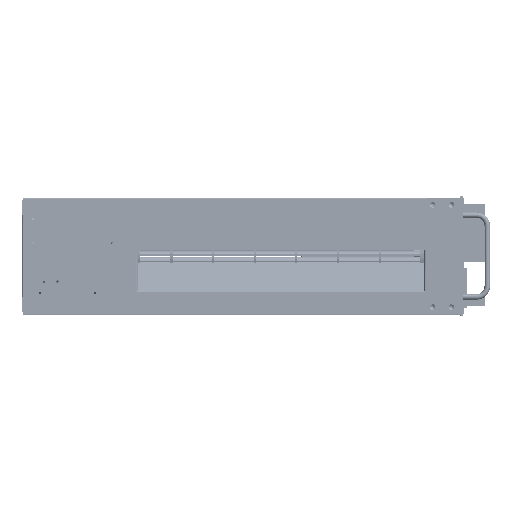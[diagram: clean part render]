
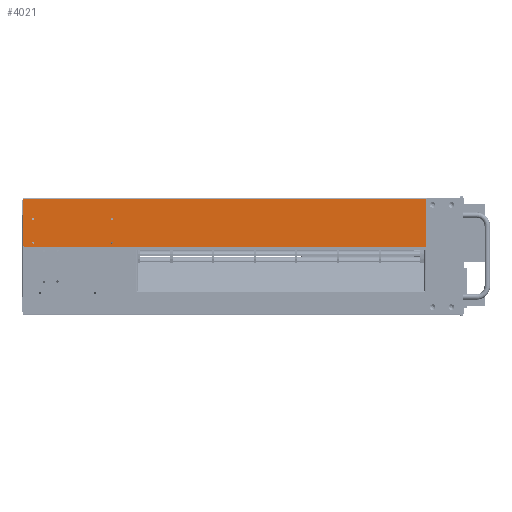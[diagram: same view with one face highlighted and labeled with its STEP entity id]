
A CAD part, left-side view. The second image highlights one B-rep face of the part: STEP entity #4021.
In plain terms, the highlighted planar face has unit normal (-1, 0, 0).
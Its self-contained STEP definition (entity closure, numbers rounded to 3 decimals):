
#3836=CARTESIAN_POINT('Vertex',(-220.5,320.,-67.)) ;
#3839=CARTESIAN_POINT('Line Origine',(-220.5,320.,-33.75)) ;
#3843=CARTESIAN_POINT('Vertex',(-220.5,320.,-0.5)) ;
#3867=CARTESIAN_POINT('Axis2P3D Location',(-220.5,-320.,0.077)) ;
#3872=CARTESIAN_POINT('Axis2P3D Location',(-220.5,317.,-67.)) ;
#3876=CARTESIAN_POINT('Vertex',(-220.5,317.,-70.)) ;
#3879=CARTESIAN_POINT('Line Origine',(-220.5,0.,-70.)) ;
#3883=CARTESIAN_POINT('Vertex',(-220.5,-317.,-70.)) ;
#3886=CARTESIAN_POINT('Axis2P3D Location',(-220.5,-317.,-67.)) ;
#3890=CARTESIAN_POINT('Vertex',(-220.5,-320.,-67.)) ;
#3893=CARTESIAN_POINT('Line Origine',(-220.5,-320.,-33.75)) ;
#3897=CARTESIAN_POINT('Vertex',(-220.5,-320.,-0.5)) ;
#3900=CARTESIAN_POINT('Line Origine',(-220.5,0.,-0.5)) ;
#3913=CARTESIAN_POINT('Axis2P3D Location',(-220.5,190.,-29.)) ;
#3917=CARTESIAN_POINT('Vertex',(-220.5,190.,-30.6)) ;
#3919=CARTESIAN_POINT('Vertex',(-220.5,190.,-27.4)) ;
#3922=CARTESIAN_POINT('Axis2P3D Location',(-220.5,190.,-29.)) ;
#3931=CARTESIAN_POINT('Axis2P3D Location',(-220.5,305.,-64.)) ;
#3935=CARTESIAN_POINT('Vertex',(-220.5,305.,-65.6)) ;
#3937=CARTESIAN_POINT('Vertex',(-220.5,305.,-62.4)) ;
#3940=CARTESIAN_POINT('Axis2P3D Location',(-220.5,305.,-64.)) ;
#3949=CARTESIAN_POINT('Axis2P3D Location',(-220.5,305.,-29.)) ;
#3953=CARTESIAN_POINT('Vertex',(-220.5,305.,-30.6)) ;
#3955=CARTESIAN_POINT('Vertex',(-220.5,305.,-27.4)) ;
#3958=CARTESIAN_POINT('Axis2P3D Location',(-220.5,305.,-29.)) ;
#3967=CARTESIAN_POINT('Axis2P3D Location',(-220.5,190.,-64.)) ;
#3971=CARTESIAN_POINT('Vertex',(-220.5,190.,-65.6)) ;
#3973=CARTESIAN_POINT('Vertex',(-220.5,190.,-62.4)) ;
#3976=CARTESIAN_POINT('Axis2P3D Location',(-220.5,190.,-64.)) ;
#3985=CARTESIAN_POINT('Axis2P3D Location',(-220.5,-307.5,-8.5)) ;
#3989=CARTESIAN_POINT('Vertex',(-220.5,-307.5,-10.1)) ;
#3991=CARTESIAN_POINT('Vertex',(-220.5,-307.5,-6.9)) ;
#3994=CARTESIAN_POINT('Axis2P3D Location',(-220.5,-307.5,-8.5)) ;
#4003=CARTESIAN_POINT('Axis2P3D Location',(-220.5,-280.,-8.5)) ;
#4007=CARTESIAN_POINT('Vertex',(-220.5,-280.,-10.1)) ;
#4009=CARTESIAN_POINT('Vertex',(-220.5,-280.,-6.9)) ;
#4012=CARTESIAN_POINT('Axis2P3D Location',(-220.5,-280.,-8.5)) ;
#3840=DIRECTION('Vector Direction',(0.,0.,-1.)) ;
#3868=DIRECTION('Axis2P3D Direction',(-1.,0.,0.)) ;
#3869=DIRECTION('Axis2P3D XDirection',(0.,0.,1.)) ;
#3873=DIRECTION('Axis2P3D Direction',(-1.,0.,0.)) ;
#3880=DIRECTION('Vector Direction',(0.,-1.,0.)) ;
#3887=DIRECTION('Axis2P3D Direction',(-1.,0.,0.)) ;
#3894=DIRECTION('Vector Direction',(0.,0.,1.)) ;
#3901=DIRECTION('Vector Direction',(0.,1.,0.)) ;
#3914=DIRECTION('Axis2P3D Direction',(-1.,0.,0.)) ;
#3923=DIRECTION('Axis2P3D Direction',(-1.,0.,0.)) ;
#3932=DIRECTION('Axis2P3D Direction',(-1.,0.,0.)) ;
#3941=DIRECTION('Axis2P3D Direction',(-1.,0.,0.)) ;
#3950=DIRECTION('Axis2P3D Direction',(-1.,0.,0.)) ;
#3959=DIRECTION('Axis2P3D Direction',(-1.,0.,0.)) ;
#3968=DIRECTION('Axis2P3D Direction',(-1.,0.,0.)) ;
#3977=DIRECTION('Axis2P3D Direction',(-1.,0.,0.)) ;
#3986=DIRECTION('Axis2P3D Direction',(-1.,0.,0.)) ;
#3995=DIRECTION('Axis2P3D Direction',(-1.,0.,0.)) ;
#4004=DIRECTION('Axis2P3D Direction',(-1.,0.,0.)) ;
#4013=DIRECTION('Axis2P3D Direction',(-1.,0.,0.)) ;
#3870=AXIS2_PLACEMENT_3D('Plane Axis2P3D',#3867,#3868,#3869) ;
#3874=AXIS2_PLACEMENT_3D('Circle Axis2P3D',#3872,#3873,$) ;
#3888=AXIS2_PLACEMENT_3D('Circle Axis2P3D',#3886,#3887,$) ;
#3915=AXIS2_PLACEMENT_3D('Circle Axis2P3D',#3913,#3914,$) ;
#3924=AXIS2_PLACEMENT_3D('Circle Axis2P3D',#3922,#3923,$) ;
#3933=AXIS2_PLACEMENT_3D('Circle Axis2P3D',#3931,#3932,$) ;
#3942=AXIS2_PLACEMENT_3D('Circle Axis2P3D',#3940,#3941,$) ;
#3951=AXIS2_PLACEMENT_3D('Circle Axis2P3D',#3949,#3950,$) ;
#3960=AXIS2_PLACEMENT_3D('Circle Axis2P3D',#3958,#3959,$) ;
#3969=AXIS2_PLACEMENT_3D('Circle Axis2P3D',#3967,#3968,$) ;
#3978=AXIS2_PLACEMENT_3D('Circle Axis2P3D',#3976,#3977,$) ;
#3987=AXIS2_PLACEMENT_3D('Circle Axis2P3D',#3985,#3986,$) ;
#3996=AXIS2_PLACEMENT_3D('Circle Axis2P3D',#3994,#3995,$) ;
#4005=AXIS2_PLACEMENT_3D('Circle Axis2P3D',#4003,#4004,$) ;
#4014=AXIS2_PLACEMENT_3D('Circle Axis2P3D',#4012,#4013,$) ;
#3906=ORIENTED_EDGE('',*,*,#3845,.T.) ;
#3907=ORIENTED_EDGE('',*,*,#3878,.T.) ;
#3908=ORIENTED_EDGE('',*,*,#3885,.T.) ;
#3909=ORIENTED_EDGE('',*,*,#3892,.T.) ;
#3910=ORIENTED_EDGE('',*,*,#3899,.T.) ;
#3911=ORIENTED_EDGE('',*,*,#3904,.T.) ;
#3928=ORIENTED_EDGE('',*,*,#3921,.F.) ;
#3929=ORIENTED_EDGE('',*,*,#3926,.F.) ;
#3946=ORIENTED_EDGE('',*,*,#3939,.F.) ;
#3947=ORIENTED_EDGE('',*,*,#3944,.F.) ;
#3964=ORIENTED_EDGE('',*,*,#3957,.F.) ;
#3965=ORIENTED_EDGE('',*,*,#3962,.F.) ;
#3982=ORIENTED_EDGE('',*,*,#3975,.F.) ;
#3983=ORIENTED_EDGE('',*,*,#3980,.F.) ;
#4000=ORIENTED_EDGE('',*,*,#3993,.F.) ;
#4001=ORIENTED_EDGE('',*,*,#3998,.F.) ;
#4018=ORIENTED_EDGE('',*,*,#4011,.F.) ;
#4019=ORIENTED_EDGE('',*,*,#4016,.F.) ;
#3930=FACE_BOUND('',#3927,.T.) ;
#3948=FACE_BOUND('',#3945,.T.) ;
#3966=FACE_BOUND('',#3963,.T.) ;
#3984=FACE_BOUND('',#3981,.T.) ;
#4002=FACE_BOUND('',#3999,.T.) ;
#4020=FACE_BOUND('',#4017,.T.) ;
#3841=VECTOR('Line Direction',#3840,1.) ;
#3881=VECTOR('Line Direction',#3880,1.) ;
#3895=VECTOR('Line Direction',#3894,1.) ;
#3902=VECTOR('Line Direction',#3901,1.) ;
#4021=ADVANCED_FACE('15',(#3912,#3930,#3948,#3966,#3984,#4002,#4020),#3871,.T.) ;
#3875=CIRCLE('generated circle',#3874,3.) ;
#3889=CIRCLE('generated circle',#3888,3.) ;
#3916=CIRCLE('generated circle',#3915,1.6) ;
#3925=CIRCLE('generated circle',#3924,1.6) ;
#3934=CIRCLE('generated circle',#3933,1.6) ;
#3943=CIRCLE('generated circle',#3942,1.6) ;
#3952=CIRCLE('generated circle',#3951,1.6) ;
#3961=CIRCLE('generated circle',#3960,1.6) ;
#3970=CIRCLE('generated circle',#3969,1.6) ;
#3979=CIRCLE('generated circle',#3978,1.6) ;
#3988=CIRCLE('generated circle',#3987,1.6) ;
#3997=CIRCLE('generated circle',#3996,1.6) ;
#4006=CIRCLE('generated circle',#4005,1.6) ;
#4015=CIRCLE('generated circle',#4014,1.6) ;
#3845=EDGE_CURVE('',#3844,#3837,#3842,.T.) ;
#3878=EDGE_CURVE('',#3837,#3877,#3875,.T.) ;
#3885=EDGE_CURVE('',#3877,#3884,#3882,.T.) ;
#3892=EDGE_CURVE('',#3884,#3891,#3889,.T.) ;
#3899=EDGE_CURVE('',#3891,#3898,#3896,.T.) ;
#3904=EDGE_CURVE('',#3898,#3844,#3903,.T.) ;
#3921=EDGE_CURVE('',#3918,#3920,#3916,.T.) ;
#3926=EDGE_CURVE('',#3920,#3918,#3925,.T.) ;
#3939=EDGE_CURVE('',#3936,#3938,#3934,.T.) ;
#3944=EDGE_CURVE('',#3938,#3936,#3943,.T.) ;
#3957=EDGE_CURVE('',#3954,#3956,#3952,.T.) ;
#3962=EDGE_CURVE('',#3956,#3954,#3961,.T.) ;
#3975=EDGE_CURVE('',#3972,#3974,#3970,.T.) ;
#3980=EDGE_CURVE('',#3974,#3972,#3979,.T.) ;
#3993=EDGE_CURVE('',#3990,#3992,#3988,.T.) ;
#3998=EDGE_CURVE('',#3992,#3990,#3997,.T.) ;
#4011=EDGE_CURVE('',#4008,#4010,#4006,.T.) ;
#4016=EDGE_CURVE('',#4010,#4008,#4015,.T.) ;
#3905=EDGE_LOOP('',(#3906,#3907,#3908,#3909,#3910,#3911)) ;
#3927=EDGE_LOOP('',(#3928,#3929)) ;
#3945=EDGE_LOOP('',(#3946,#3947)) ;
#3963=EDGE_LOOP('',(#3964,#3965)) ;
#3981=EDGE_LOOP('',(#3982,#3983)) ;
#3999=EDGE_LOOP('',(#4000,#4001)) ;
#4017=EDGE_LOOP('',(#4018,#4019)) ;
#3912=FACE_OUTER_BOUND('',#3905,.T.) ;
#3842=LINE('Line',#3839,#3841) ;
#3882=LINE('Line',#3879,#3881) ;
#3896=LINE('Line',#3893,#3895) ;
#3903=LINE('Line',#3900,#3902) ;
#3871=PLANE('',#3870) ;
#3837=VERTEX_POINT('',#3836) ;
#3844=VERTEX_POINT('',#3843) ;
#3877=VERTEX_POINT('',#3876) ;
#3884=VERTEX_POINT('',#3883) ;
#3891=VERTEX_POINT('',#3890) ;
#3898=VERTEX_POINT('',#3897) ;
#3918=VERTEX_POINT('',#3917) ;
#3920=VERTEX_POINT('',#3919) ;
#3936=VERTEX_POINT('',#3935) ;
#3938=VERTEX_POINT('',#3937) ;
#3954=VERTEX_POINT('',#3953) ;
#3956=VERTEX_POINT('',#3955) ;
#3972=VERTEX_POINT('',#3971) ;
#3974=VERTEX_POINT('',#3973) ;
#3990=VERTEX_POINT('',#3989) ;
#3992=VERTEX_POINT('',#3991) ;
#4008=VERTEX_POINT('',#4007) ;
#4010=VERTEX_POINT('',#4009) ;
